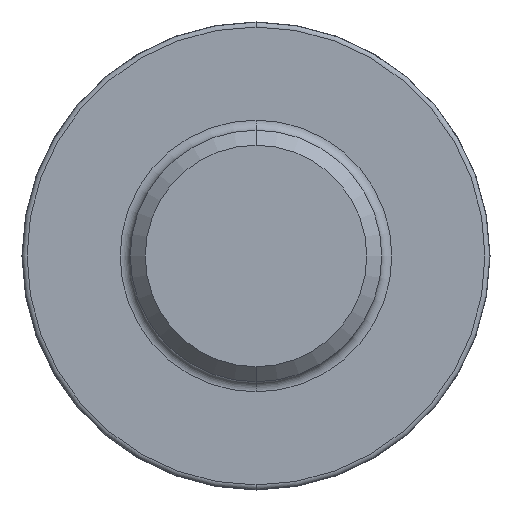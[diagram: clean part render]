
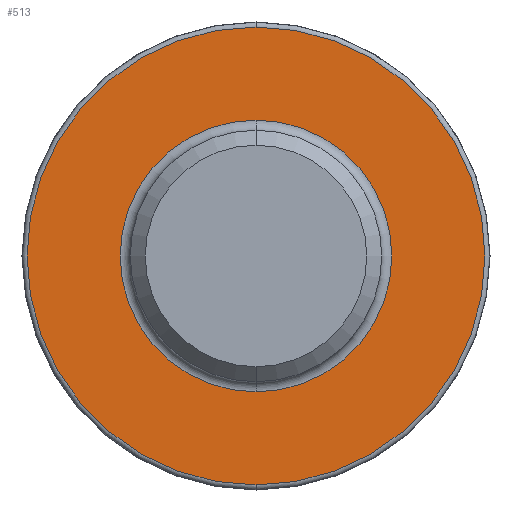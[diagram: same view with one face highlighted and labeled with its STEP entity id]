
A CAD part, front view. The second image highlights one B-rep face of the part: STEP entity #513.
In plain terms, the highlighted planar face has unit normal (0, -1, 0).
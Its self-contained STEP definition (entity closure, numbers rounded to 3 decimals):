
#17 = CARTESIAN_POINT ( 'NONE',  ( 0., -2.7, -4.55 ) ) ;
#30 = DIRECTION ( 'NONE',  ( 0., 0., 1. ) ) ;
#53 = VERTEX_POINT ( 'NONE', #356 ) ;
#54 = DIRECTION ( 'NONE',  ( 0., 1., 0. ) ) ;
#94 = CARTESIAN_POINT ( 'NONE',  ( 0., -2.7, 0. ) ) ;
#109 = AXIS2_PLACEMENT_3D ( 'NONE', #306, #303, #226 ) ;
#153 = CIRCLE ( 'NONE', #629, 4.55 ) ;
#185 = ORIENTED_EDGE ( 'NONE', *, *, #654, .T. ) ;
#190 = DIRECTION ( 'NONE',  ( 0., 0., 1. ) ) ;
#225 = AXIS2_PLACEMENT_3D ( 'NONE', #94, #369, #707 ) ;
#226 = DIRECTION ( 'NONE',  ( 0., 0., 1. ) ) ;
#248 = EDGE_LOOP ( 'NONE', ( #185, #528 ) ) ;
#267 = CIRCLE ( 'NONE', #225, 4.55 ) ;
#286 = DIRECTION ( 'NONE',  ( 0., 1., 0. ) ) ;
#303 = DIRECTION ( 'NONE',  ( 0., 1., 0. ) ) ;
#306 = CARTESIAN_POINT ( 'NONE',  ( 2.5, -2.7, 0. ) ) ;
#313 = VERTEX_POINT ( 'NONE', #414 ) ;
#356 = CARTESIAN_POINT ( 'NONE',  ( 0., -2.7, 4.55 ) ) ;
#369 = DIRECTION ( 'NONE',  ( 0., -1., 0. ) ) ;
#392 = CARTESIAN_POINT ( 'NONE',  ( 0., -2.7, 0. ) ) ;
#402 = EDGE_LOOP ( 'NONE', ( #502, #757 ) ) ;
#407 = AXIS2_PLACEMENT_3D ( 'NONE', #392, #54, #190 ) ;
#414 = CARTESIAN_POINT ( 'NONE',  ( 0., -2.7, -2.7 ) ) ;
#450 = VERTEX_POINT ( 'NONE', #17 ) ;
#472 = CARTESIAN_POINT ( 'NONE',  ( 0., -2.7, 0. ) ) ;
#486 = EDGE_CURVE ( 'NONE', #450, #53, #153, .T. ) ;
#500 = FACE_OUTER_BOUND ( 'NONE', #402, .T. ) ;
#502 = ORIENTED_EDGE ( 'NONE', *, *, #541, .T. ) ;
#504 = CIRCLE ( 'NONE', #819, 2.7 ) ;
#513 = ADVANCED_FACE ( 'NONE', ( #820, #500 ), #828, .F. ) ;
#528 = ORIENTED_EDGE ( 'NONE', *, *, #795, .T. ) ;
#538 = CARTESIAN_POINT ( 'NONE',  ( 0., -2.7, 2.7 ) ) ;
#541 = EDGE_CURVE ( 'NONE', #53, #450, #267, .T. ) ;
#629 = AXIS2_PLACEMENT_3D ( 'NONE', #836, #637, #30 ) ;
#637 = DIRECTION ( 'NONE',  ( 0., -1., 0. ) ) ;
#654 = EDGE_CURVE ( 'NONE', #748, #313, #738, .T. ) ;
#674 = DIRECTION ( 'NONE',  ( 0., 0., 1. ) ) ;
#707 = DIRECTION ( 'NONE',  ( 0., 0., 1. ) ) ;
#738 = CIRCLE ( 'NONE', #407, 2.7 ) ;
#748 = VERTEX_POINT ( 'NONE', #538 ) ;
#757 = ORIENTED_EDGE ( 'NONE', *, *, #486, .T. ) ;
#795 = EDGE_CURVE ( 'NONE', #313, #748, #504, .T. ) ;
#819 = AXIS2_PLACEMENT_3D ( 'NONE', #472, #286, #674 ) ;
#820 = FACE_BOUND ( 'NONE', #248, .T. ) ;
#828 = PLANE ( 'NONE',  #109 ) ;
#836 = CARTESIAN_POINT ( 'NONE',  ( 0., -2.7, 0. ) ) ;
